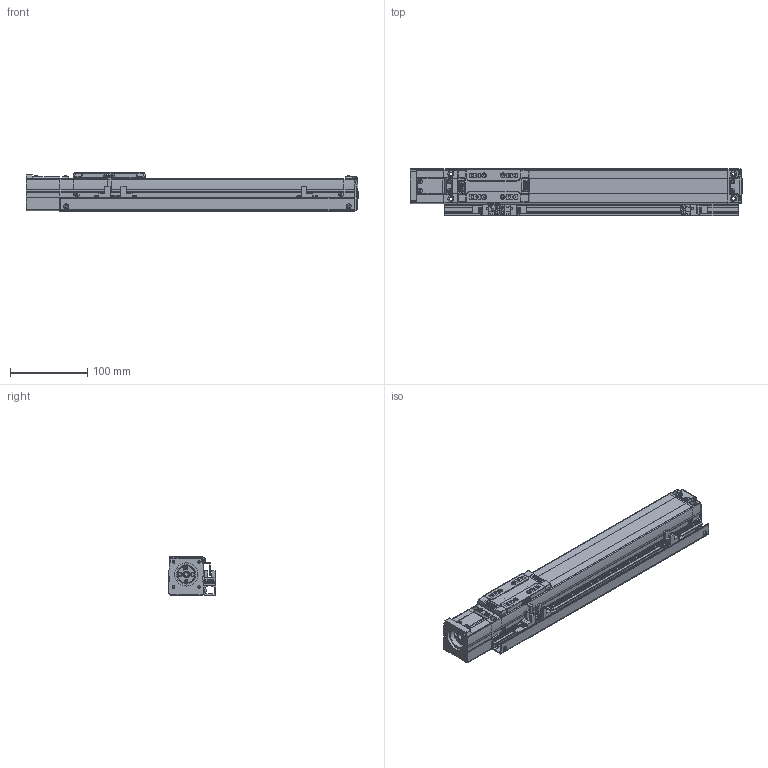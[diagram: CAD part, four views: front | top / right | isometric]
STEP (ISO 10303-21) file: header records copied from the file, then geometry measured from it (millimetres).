
FILE_DESCRIPTION(('STEP AP214'),'1');
FILE_NAME('Z:/Web/3D/SAN45/STP/SAN45ㅁㅁ-250S+3SR.stp','2012-06-15T05:11:36',(' '),(' '),'Spatial InterOp 3D',' ',' ');
FILE_SCHEMA(('automotive_design'));
Length unit declared in the file: metre
Products named in the file (86): SAN45__-250; BODY-SAN45; REAR-SAN45; RRCV-SAN45; BHCS M3 x 6L; BHCS M3 X 6L; FRONT-SAN45; SHAFT; RN8 x 0.75; SSFX-SAN45; SLIDE-SAN45; SLCV-IM45; FHCS M3 x 6L; ____93; S; MTHZ-SAN45; SDWB 22C-6-8; SDWB22C(2); SDWB22C(2)_1; SDWB22C(3); SDWB22C(3)_1; SDWB22C(3)_2; SDWB22C(3)_3; SDWB22C(3)_4; SDWB22C(3)_5; SDWB22C(3)_6; SDWB22C(3)_7; SDWB22C(3)_8; SDWB22C(3)_9; SDWB22C(3)_10; SDWB22C(3)_11; SDWB22C(3)_12; SDWB22C(3)_13; SDWB22C(3)_14; SDWB22C(3)_15; SDWB22C(4); SDWB22C(5); SDWB22C(5)_1; SDWB22C(5)_2; SDWB22C(5)_3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
Assembly tree (85 placements, depth 4):
  ____93
    SAN45__-250
      BODY-SAN45
      REAR-SAN45
        REAR-SAN45
        RRCV-SAN45
        BHCS M3 x 6L
        BHCS M3 X 6L
        BHCS M3 x 6L
        BHCS M3 x 6L
        BHCS M3 x 6L
        BHCS M3 x 6L
      FRONT-SAN45
        FRONT-SAN45
        SHAFT
        RN8 x 0.75
        SSFX-SAN45
        BHCS M3 x 6L
        BHCS M3 x 6L
        BHCS M3 x 6L
        BHCS M3 x 6L
      SLIDE-SAN45
        SLIDE-SAN45
        SLCV-IM45
        FHCS M3 x 6L
        FHCS M3 x 6L
        FHCS M3 x 6L
        FHCS M3 x 6L
    S
      MTHZ-SAN45
      SDWB 22C-6-8
        SDWB22C(2)
        SDWB22C(2)_1
        SDWB22C(3)
        SDWB22C(3)_1
        SDWB22C(3)_2
        SDWB22C(3)_3
        SDWB22C(3)_4
        SDWB22C(3)_5
        SDWB22C(3)_6
        SDWB22C(3)_7
        SDWB22C(3)_8
        SDWB22C(3)_9
        SDWB22C(3)_10
        SDWB22C(3)_11
        SDWB22C(3)_12
        SDWB22C(3)_13
        SDWB22C(3)_14
        SDWB22C(3)_15
        SDWB22C(4)
        SDWB22C(5)
        SDWB22C(5)_1
        SDWB22C(5)_2
        SDWB22C(5)_3
        SDWB22C(5)_4
        SDWB22C(5)_5
        SDWB22C(5)_6
        SDWB22C(5)_7
        SDWA22C(1)
        SDWA22C(1)
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Bounding box: 430.15 x 62.06 x 50 mm (x, y, z)
Volume: 826685.7 mm3; surface area: 193926.4 mm2
Topology: 74 solids, 74 shells, 2376 faces, 6044 edges, 3899 vertices
Faces by surface type: plane 1432, cylinder 658, cone 156, sphere 54, bspline 46, torus 27, extrusion 3
Full cylindrical faces by diameter (mm): 0.376 x2, 0.47 x1, 1.137 x2, 1.421 x1, 1.665 x4, 2.081 x2, 2.2 x4, 2.5 x45, 2.6 x14, 2.7 x2, 3 x10, 3.193 x4, 3.3 x8, 3.4 x4, 3.5 x16, 3.991 x2, 4.2 x8, 4.5 x28, 4.9 x2, 5 x13, 6 x9, 6.5 x2, 7 x1, 8 x9, 9 x1, 10.7 x2, 13 x1, 15 x1, 19 x1, 22.2 x3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
Entity records: 94218 total; most frequent: CARTESIAN_POINT 17033, DIRECTION 11921, ORIENTED_EDGE 11032, EDGE_CURVE 5516, AXIS2_PLACEMENT_3D 4154, VERTEX_POINT 3770, VECTOR 3613, LINE 3610
